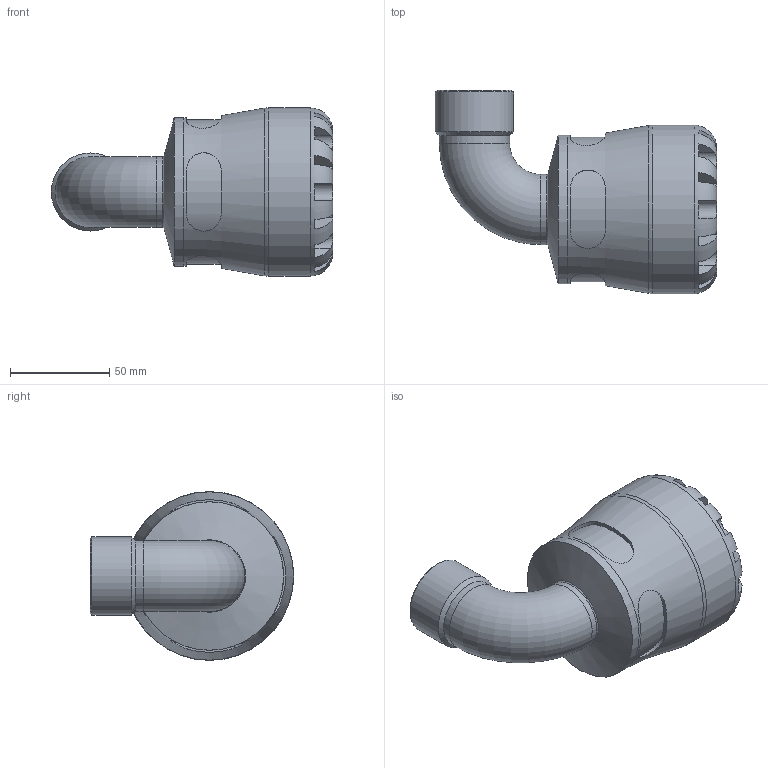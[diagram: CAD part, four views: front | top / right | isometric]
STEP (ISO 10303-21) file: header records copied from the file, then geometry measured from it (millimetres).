
FILE_DESCRIPTION(/* description */ ('PLASSON 90° ELBOW WITH FEMALE INTEGRAL BRASS 50X1" SERIES 1'),/* implementation_level */ '2;1');
FILE_NAME(/* name */ 'C:\Dropbox\KIMPROJECTS-Inventor\99-16-3568-Processing\1076\107600050010_197600050010.ipt.step',/* time_stamp */ '2017-05-18T12:03:38+03:00',/* author */ ('KIM'),/* organization */ (''),/* preprocessor_version */ 'ST-DEVELOPER v15.6',/* originating_system */ 'Autodesk Inventor 2015',/* authorisation */ '');
FILE_SCHEMA (('AUTOMOTIVE_DESIGN { 1 0 10303 214 3 1 1 }'));
Length unit declared in the file: millimetre
Products named in the file (1): 107600050010_197600050010
Bounding box: 141.69 x 102.5 x 85 mm (x, y, z)
Volume: 283493.9 mm3; surface area: 60829.5 mm2
Topology: 1 solids, 1 shells, 108 faces, 265 edges, 164 vertices
Faces by surface type: plane 60, cylinder 37, torus 6, cone 5
Full cylindrical faces by diameter (mm): 27.262 x2, 30.291 x1, 35.44 x2, 39.378 x1, 50 x1, 74.8 x1, 85 x1
Entity records: 3980 total; most frequent: CARTESIAN_POINT 1455, DIRECTION 488, ORIENTED_EDGE 478, EDGE_CURVE 239, AXIS2_PLACEMENT_3D 204, VERTEX_POINT 159, EDGE_LOOP 136, STYLED_ITEM 109
